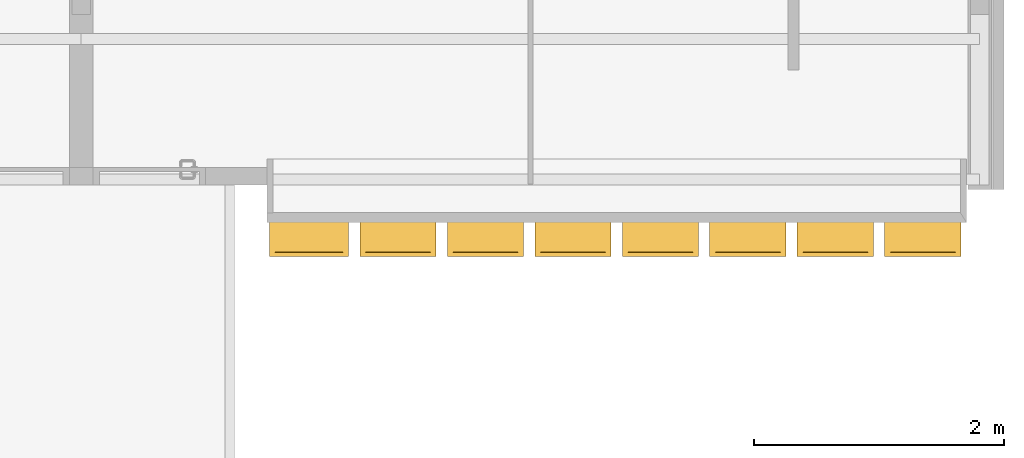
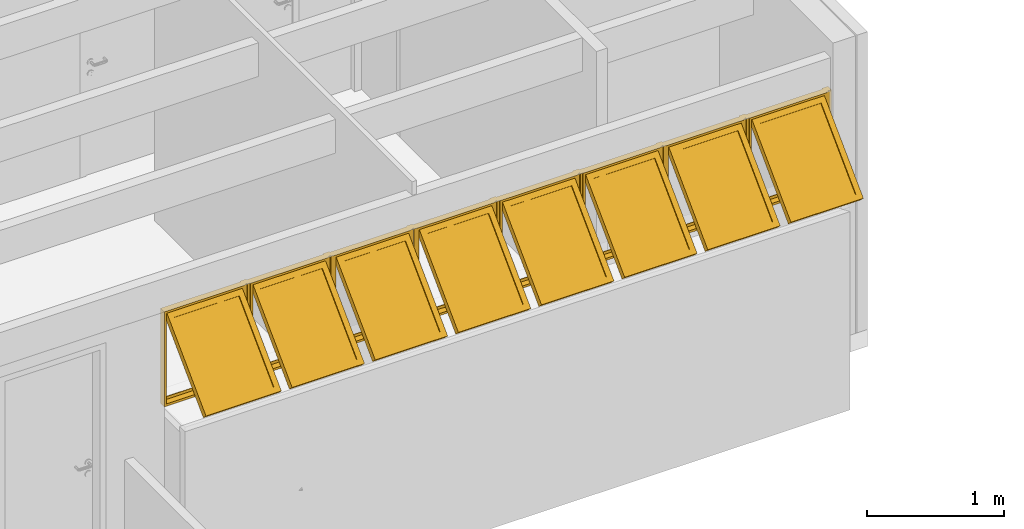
# One storey, part 20 of 22: 1 window.
"""IFC2X3 building model written with IfcOpenShell, lengths in millimetres."""

from ifc_helpers import new_model, si_unit, direction, frame, frame_2d, origin_with_axes, origin_2d_with_axis, place, context, subcontext, project, spatial, polyline, rectangle, outline, extrude, source, transform, mapped, type_object, type_shapes, element, save


model = new_model("IFC2X3")

# Units and contexts
model_context = context("Model", 3, precision=1e-05, world=origin_with_axes(), true_north=direction((0.0, 1.0)))
body_context = subcontext(model_context, "Body", "Model", "MODEL_VIEW")
ifc_project = project(units=[si_unit("LENGTHUNIT", "METRE", prefix="MILLI"), si_unit("AREAUNIT", "SQUARE_METRE"), si_unit("VOLUMEUNIT", "CUBIC_METRE"), si_unit("PLANEANGLEUNIT", "RADIAN"), si_unit("TIMEUNIT", "SECOND"), si_unit("MASSUNIT", "GRAM")], contexts=[model_context])

# Site, building, storey
site_placement = place(None, origin_with_axes())
site = spatial("IfcSite", under=ifc_project, at=site_placement, Name="Site", CompositionType="ELEMENT")
building_placement = place(site_placement, origin_with_axes())
building = spatial("IfcBuilding", under=site, at=building_placement, Name="Construção", CompositionType="COMPLEX")
storey_placement = place(building_placement, frame((0.0, 0.0, 2650.0), z_axis=(0.0, 0.0, 1.0), x_axis=(1.0, 0.0, 0.0)))
storey = spatial("IfcBuildingStorey", under=building, at=storey_placement, Name="Segundo Pavimento", CompositionType="COMPLEX", Elevation=2650.0)

# Window
window_style = type_object("IfcWindowStyle", ConstructionType="NOTDEFINED", OperationType="NOTDEFINED", ParameterTakesPrecedence=False, Sizeable=False)
shared_shape_1 = source(origin_with_axes(), body_context, "Body", "SweptSolid", [
    extrude(outline(polyline([(324.99999695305, -22.5), (-324.99999695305, -22.5), (-279.99999695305, 22.5), (279.99999695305, 22.5), (324.99999695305, -22.5)])), frame((-350.0000005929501, 22.5, -40.0), z_axis=(0.0, 0.0, 1.0), x_axis=(1.0, 0.0, 0.0)), (0.0, 0.0, 1.0), 5.0),
    extrude(outline(polyline([(-22.5, -422.499945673), (-22.5, 422.499945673), (22.5, 377.499945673), (22.5, -377.499945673), (-22.5, -422.499945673)])), frame((-652.499997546, 422.499945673, -40.0), z_axis=(0.0, 0.0, 1.0), x_axis=(1.0, 0.0, 0.0)), (0.0, 0.0, 1.0), 5.0),
    extrude(outline(polyline([(324.99999695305, 22.5), (279.99999695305, -22.5), (-279.9999969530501, -22.5), (-324.9999969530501, 22.5), (324.99999695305, 22.5)])), frame((-350.00000059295, 822.499891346, -40.0), z_axis=(0.0, 0.0, 1.0), x_axis=(1.0, 0.0, 0.0)), (0.0, 0.0, 1.0), 5.0),
    extrude(outline(polyline([(22.5, -422.499945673), (-22.5, -377.499945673), (-22.5, 377.499945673), (22.5, 422.499945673), (22.5, -422.499945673)])), frame((-47.5000036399, 422.499945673, -40.0), z_axis=(0.0, 0.0, 1.0), x_axis=(1.0, 0.0, 0.0)), (0.0, 0.0, 1.0), 5.0),
    extrude(outline(polyline([(324.99999695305, -10.0), (-324.99999695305, -10.0), (-304.99999695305, 10.0), (304.99999695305, 10.0), (324.99999695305, -10.0)])), frame((-350.0000005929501, 10.0, -35.0), z_axis=(0.0, 0.0, 1.0), x_axis=(1.0, 0.0, 0.0)), (0.0, 0.0, 1.0), 50.0),
    extrude(outline(polyline([(-10.0, -422.499945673), (-10.0, 422.499945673), (10.0, 402.499945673), (10.0, -402.499945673), (-10.0, -422.499945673)])), frame((-664.999997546, 422.499945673, -35.0), z_axis=(0.0, 0.0, 1.0), x_axis=(1.0, 0.0, 0.0)), (0.0, 0.0, 1.0), 50.0),
    extrude(outline(polyline([(324.99999695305, 10.0), (304.99999695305, -10.0), (-304.9999969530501, -10.0), (-324.9999969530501, 10.0), (324.99999695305, 10.0)])), frame((-350.00000059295, 834.999891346, -35.0), z_axis=(0.0, 0.0, 1.0), x_axis=(1.0, 0.0, 0.0)), (0.0, 0.0, 1.0), 50.0),
    extrude(outline(polyline([(10.0, -422.499945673), (-10.0, -402.499945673), (-10.0, 402.499945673), (10.0, 422.499945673), (10.0, -422.499945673)])), frame((-35.0000036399, 422.499945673, -35.0), z_axis=(0.0, 0.0, 1.0), x_axis=(1.0, 0.0, 0.0)), (0.0, 0.0, 1.0), 50.0),
    extrude(rectangle(XDim=844.999891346, YDim=19.99999787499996, at=frame_2d((0.0, 0.0), x_axis=(0.0, 1.0))), frame((-684.9999964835, 422.499945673, -10.0), z_axis=(0.0, 0.0, 1.0), x_axis=(1.0, 0.0, 0.0)), (0.0, 0.0, 1.0), 20.0),
    extrude(rectangle(XDim=844.999891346, YDim=19.99999787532, at=frame_2d((0.0, 0.0), x_axis=(0.0, 1.0))), frame((-15.00000470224, 422.499945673, -10.0), z_axis=(0.0, 0.0, 1.0), x_axis=(1.0, 0.0, 0.0)), (0.0, 0.0, 1.0), 20.0),
    extrude(outline(polyline([(-22.5, -357.4999456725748), (-22.50000000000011, 357.499945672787), (22.5, 402.4999456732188), (22.5, -402.4999456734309), (-22.5, -357.4999456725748)])), frame((-67.5000036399, 505.034111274, 264.2551019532), z_axis=(4.714640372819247e-12, 0.7071067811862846, 0.7071067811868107), x_axis=(1.0, 0.0, 0.0)), (0.0, 0.0, 1.0), 55.00000000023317),
    extrude(outline(polyline([(-22.5, -402.4999456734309), (-22.50000000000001, 402.4999456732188), (22.5, 357.499945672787), (22.5, -357.4999456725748), (-22.5, -402.4999456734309)])), frame((-632.499997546, 505.034111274, 264.2551019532), z_axis=(4.714640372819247e-12, 0.7071067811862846, 0.7071067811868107), x_axis=(1.0, 0.0, 0.0)), (0.0, 0.0, 1.0), 55.00000000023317),
    extrude(outline(polyline([(-304.9999969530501, -22.50000000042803), (-259.9999969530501, 22.50000000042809), (259.99999695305, 22.50000000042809), (304.99999695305, -22.50000000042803), (-304.9999969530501, -22.50000000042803)])), frame((-350.0000005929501, 236.333572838, 532.955640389), z_axis=(4.714640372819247e-12, 0.7071067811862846, 0.7071067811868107), x_axis=(1.0, 0.0, 0.0)), (0.0, 0.0, 1.0), 55.00000000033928),
    extrude(outline(polyline([(304.99999695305, 22.500000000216), (259.99999695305, -22.500000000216), (-259.9999969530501, -22.500000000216), (-304.9999969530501, 22.500000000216), (304.99999695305, 22.500000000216)])), frame((-350.00000059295, 773.73464971, -4.4454364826), z_axis=(4.714640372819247e-12, 0.7071067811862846, 0.7071067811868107), x_axis=(1.0, 0.0, 0.0)), (0.0, 0.0, 1.0), 55.00000000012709),
])
shared_shape_2 = source(origin_with_axes(), body_context, "Body", "SweptSolid", [
    extrude(rectangle(XDim=519.9999939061, YDim=16.00000000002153, at=origin_2d_with_axis()), frame((-350.0000005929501, 783.9876980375, 37.627416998), z_axis=(0.0, -0.7071067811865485, 0.7071067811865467), x_axis=(1.0, 0.0, 0.0)), (0.0, 0.0, 1.0), 714.9998913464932),
])
shared_shape_3 = source(origin_with_axes(), body_context, "Body", "MappedRepresentation", [
    mapped(shared_shape_1, transform((12370.0, 17910.0, 4005.00007107), x_axis=(1.0, 0.0, 0.0), y_axis=(0.0, 0.0, 1.0), z_axis=(0.0, -1.0, 0.0), scale=1.0)),
    mapped(shared_shape_2, transform((12370.0, 17910.0, 4005.00007107), x_axis=(1.0, 0.0, 0.0), y_axis=(0.0, 0.0, 1.0), z_axis=(0.0, -1.0, 0.0), scale=1.0)),
])
shared_shape_4 = source(origin_with_axes(), body_context, "Body", "MappedRepresentation", [
    mapped(shared_shape_1, transform((10270.0, 17910.0, 4005.00007107), x_axis=(1.0, 0.0, 0.0), y_axis=(0.0, 0.0, 1.0), z_axis=(0.0, -1.0, 0.0), scale=1.0)),
    mapped(shared_shape_2, transform((10270.0, 17910.0, 4005.00007107), x_axis=(1.0, 0.0, 0.0), y_axis=(0.0, 0.0, 1.0), z_axis=(0.0, -1.0, 0.0), scale=1.0)),
])
shared_shape_5 = source(origin_with_axes(), body_context, "Body", "SweptSolid", [
    extrude(outline(polyline([(324.99999695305, -22.5), (-324.99999695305, -22.5), (-279.99999695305, 22.5), (279.99999695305, 22.5), (324.99999695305, -22.5)])), frame((-350.0000005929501, 22.5, -40.0), z_axis=(0.0, 0.0, 1.0), x_axis=(1.0, 0.0, 0.0)), (0.0, 0.0, 1.0), 5.0),
    extrude(outline(polyline([(-22.5, -422.499945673), (-22.5, 422.499945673), (22.5, 377.499945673), (22.5, -377.499945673), (-22.5, -422.499945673)])), frame((-652.499997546, 422.499945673, -40.0), z_axis=(0.0, 0.0, 1.0), x_axis=(1.0, 0.0, 0.0)), (0.0, 0.0, 1.0), 5.0),
    extrude(outline(polyline([(324.99999695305, 22.5), (279.99999695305, -22.5), (-279.9999969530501, -22.5), (-324.9999969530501, 22.5), (324.99999695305, 22.5)])), frame((-350.00000059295, 822.499891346, -40.0), z_axis=(0.0, 0.0, 1.0), x_axis=(1.0, 0.0, 0.0)), (0.0, 0.0, 1.0), 5.0),
    extrude(outline(polyline([(22.5, -422.499945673), (-22.5, -377.499945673), (-22.5, 377.499945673), (22.5, 422.499945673), (22.5, -422.499945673)])), frame((-47.5000036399, 422.499945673, -40.0), z_axis=(0.0, 0.0, 1.0), x_axis=(1.0, 0.0, 0.0)), (0.0, 0.0, 1.0), 5.0),
    extrude(outline(polyline([(324.99999695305, -10.0), (-324.99999695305, -10.0), (-304.99999695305, 10.0), (304.99999695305, 10.0), (324.99999695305, -10.0)])), frame((-350.0000005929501, 10.0, -35.0), z_axis=(0.0, 0.0, 1.0), x_axis=(1.0, 0.0, 0.0)), (0.0, 0.0, 1.0), 50.0),
    extrude(outline(polyline([(-10.0, -422.499945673), (-10.0, 422.499945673), (10.0, 402.499945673), (10.0, -402.499945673), (-10.0, -422.499945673)])), frame((-664.999997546, 422.499945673, -35.0), z_axis=(0.0, 0.0, 1.0), x_axis=(1.0, 0.0, 0.0)), (0.0, 0.0, 1.0), 50.0),
    extrude(outline(polyline([(324.99999695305, 10.0), (304.99999695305, -10.0), (-304.9999969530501, -10.0), (-324.9999969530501, 10.0), (324.99999695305, 10.0)])), frame((-350.00000059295, 834.999891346, -35.0), z_axis=(0.0, 0.0, 1.0), x_axis=(1.0, 0.0, 0.0)), (0.0, 0.0, 1.0), 50.0),
    extrude(outline(polyline([(10.0, -422.499945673), (-10.0, -402.499945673), (-10.0, 402.499945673), (10.0, 422.499945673), (10.0, -422.499945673)])), frame((-35.0000036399, 422.499945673, -35.0), z_axis=(0.0, 0.0, 1.0), x_axis=(1.0, 0.0, 0.0)), (0.0, 0.0, 1.0), 50.0),
    extrude(rectangle(XDim=844.999891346, YDim=19.99999787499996, at=frame_2d((0.0, 0.0), x_axis=(0.0, 1.0))), frame((-684.9999964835, 422.499945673, -10.0), z_axis=(0.0, 0.0, 1.0), x_axis=(1.0, 0.0, 0.0)), (0.0, 0.0, 1.0), 20.0),
    extrude(rectangle(XDim=844.999891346, YDim=19.99999787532, at=frame_2d((0.0, 0.0), x_axis=(0.0, 1.0))), frame((-15.00000470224, 422.499945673, -10.0), z_axis=(0.0, 0.0, 1.0), x_axis=(1.0, 0.0, 0.0)), (0.0, 0.0, 1.0), 20.0),
    extrude(outline(polyline([(-22.5, -357.4999456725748), (-22.50000000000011, 357.499945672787), (22.5, 402.4999456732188), (22.5, -402.4999456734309), (-22.5, -357.4999456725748)])), frame((-67.5000036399, 505.034111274, 264.2551019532), z_axis=(4.714640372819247e-12, 0.7071067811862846, 0.7071067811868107), x_axis=(1.0, 0.0, 0.0)), (0.0, 0.0, 1.0), 55.00000000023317),
    extrude(outline(polyline([(-22.5, -402.4999456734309), (-22.50000000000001, 402.4999456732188), (22.5, 357.499945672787), (22.5, -357.4999456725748), (-22.5, -402.4999456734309)])), frame((-632.499997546, 505.034111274, 264.2551019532), z_axis=(4.714640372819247e-12, 0.7071067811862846, 0.7071067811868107), x_axis=(1.0, 0.0, 0.0)), (0.0, 0.0, 1.0), 55.00000000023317),
    extrude(outline(polyline([(-304.9999969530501, -22.50000000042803), (-259.9999969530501, 22.50000000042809), (259.99999695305, 22.50000000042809), (304.99999695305, -22.50000000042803), (-304.9999969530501, -22.50000000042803)])), frame((-350.0000005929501, 236.333572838, 532.955640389), z_axis=(4.714640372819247e-12, 0.7071067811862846, 0.7071067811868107), x_axis=(1.0, 0.0, 0.0)), (0.0, 0.0, 1.0), 55.00000000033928),
    extrude(outline(polyline([(304.99999695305, 22.500000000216), (259.99999695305, -22.500000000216), (-259.9999969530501, -22.500000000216), (-304.9999969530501, 22.500000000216), (304.99999695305, 22.500000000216)])), frame((-350.00000059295, 773.73464971, -4.4454364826), z_axis=(4.714640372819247e-12, 0.7071067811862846, 0.7071067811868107), x_axis=(1.0, 0.0, 0.0)), (0.0, 0.0, 1.0), 55.00000000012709),
])
shared_shape_6 = source(origin_with_axes(), body_context, "Body", "SweptSolid", [
    extrude(rectangle(XDim=519.9999939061, YDim=16.00000000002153, at=origin_2d_with_axis()), frame((-350.0000005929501, 783.9876980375, 37.627416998), z_axis=(0.0, -0.7071067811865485, 0.7071067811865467), x_axis=(1.0, 0.0, 0.0)), (0.0, 0.0, 1.0), 714.9998913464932),
])
shared_shape_7 = source(origin_with_axes(), body_context, "Body", "MappedRepresentation", [
    mapped(shared_shape_5, transform((14470.0, 17910.0, 4005.00007107), x_axis=(1.0, 0.0, 0.0), y_axis=(0.0, 0.0, 1.0), z_axis=(0.0, -1.0, 0.0), scale=1.0)),
    mapped(shared_shape_6, transform((14470.0, 17910.0, 4005.00007107), x_axis=(1.0, 0.0, 0.0), y_axis=(0.0, 0.0, 1.0), z_axis=(0.0, -1.0, 0.0), scale=1.0)),
])
shared_shape_8 = source(origin_with_axes(), body_context, "Body", "MappedRepresentation", [
    mapped(shared_shape_5, transform((13770.0, 17910.0, 4005.00007107), x_axis=(1.0, 0.0, 0.0), y_axis=(0.0, 0.0, 1.0), z_axis=(0.0, -1.0, 0.0), scale=1.0)),
    mapped(shared_shape_6, transform((13770.0, 17910.0, 4005.00007107), x_axis=(1.0, 0.0, 0.0), y_axis=(0.0, 0.0, 1.0), z_axis=(0.0, -1.0, 0.0), scale=1.0)),
])
shared_shape_9 = source(origin_with_axes(), body_context, "Body", "SweptSolid", [
    extrude(outline(polyline([(324.99999695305, -22.5), (-324.99999695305, -22.5), (-279.99999695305, 22.5), (279.99999695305, 22.5), (324.99999695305, -22.5)])), frame((-350.0000005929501, 22.5, -40.0), z_axis=(0.0, 0.0, 1.0), x_axis=(1.0, 0.0, 0.0)), (0.0, 0.0, 1.0), 5.0),
    extrude(outline(polyline([(-22.5, -422.499945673), (-22.5, 422.499945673), (22.5, 377.499945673), (22.5, -377.499945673), (-22.5, -422.499945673)])), frame((-652.499997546, 422.499945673, -40.0), z_axis=(0.0, 0.0, 1.0), x_axis=(1.0, 0.0, 0.0)), (0.0, 0.0, 1.0), 5.0),
    extrude(outline(polyline([(324.99999695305, 22.5), (279.99999695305, -22.5), (-279.9999969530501, -22.5), (-324.9999969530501, 22.5), (324.99999695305, 22.5)])), frame((-350.00000059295, 822.499891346, -40.0), z_axis=(0.0, 0.0, 1.0), x_axis=(1.0, 0.0, 0.0)), (0.0, 0.0, 1.0), 5.0),
    extrude(outline(polyline([(22.5, -422.499945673), (-22.5, -377.499945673), (-22.5, 377.499945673), (22.5, 422.499945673), (22.5, -422.499945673)])), frame((-47.5000036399, 422.499945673, -40.0), z_axis=(0.0, 0.0, 1.0), x_axis=(1.0, 0.0, 0.0)), (0.0, 0.0, 1.0), 5.0),
    extrude(outline(polyline([(324.99999695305, -10.0), (-324.99999695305, -10.0), (-304.99999695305, 10.0), (304.99999695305, 10.0), (324.99999695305, -10.0)])), frame((-350.0000005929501, 10.0, -35.0), z_axis=(0.0, 0.0, 1.0), x_axis=(1.0, 0.0, 0.0)), (0.0, 0.0, 1.0), 50.0),
    extrude(outline(polyline([(-10.0, -422.499945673), (-10.0, 422.499945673), (10.0, 402.499945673), (10.0, -402.499945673), (-10.0, -422.499945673)])), frame((-664.999997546, 422.499945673, -35.0), z_axis=(0.0, 0.0, 1.0), x_axis=(1.0, 0.0, 0.0)), (0.0, 0.0, 1.0), 50.0),
    extrude(outline(polyline([(324.99999695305, 10.0), (304.99999695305, -10.0), (-304.9999969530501, -10.0), (-324.9999969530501, 10.0), (324.99999695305, 10.0)])), frame((-350.00000059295, 834.999891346, -35.0), z_axis=(0.0, 0.0, 1.0), x_axis=(1.0, 0.0, 0.0)), (0.0, 0.0, 1.0), 50.0),
    extrude(outline(polyline([(10.0, -422.499945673), (-10.0, -402.499945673), (-10.0, 402.499945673), (10.0, 422.499945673), (10.0, -422.499945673)])), frame((-35.0000036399, 422.499945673, -35.0), z_axis=(0.0, 0.0, 1.0), x_axis=(1.0, 0.0, 0.0)), (0.0, 0.0, 1.0), 50.0),
    extrude(rectangle(XDim=844.999891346, YDim=19.99999787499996, at=frame_2d((0.0, 0.0), x_axis=(0.0, 1.0))), frame((-684.9999964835, 422.499945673, -10.0), z_axis=(0.0, 0.0, 1.0), x_axis=(1.0, 0.0, 0.0)), (0.0, 0.0, 1.0), 20.0),
    extrude(rectangle(XDim=844.999891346, YDim=19.99999787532, at=frame_2d((0.0, 0.0), x_axis=(0.0, 1.0))), frame((-15.00000470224, 422.499945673, -10.0), z_axis=(0.0, 0.0, 1.0), x_axis=(1.0, 0.0, 0.0)), (0.0, 0.0, 1.0), 20.0),
    extrude(outline(polyline([(-22.5, -357.4999456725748), (-22.50000000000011, 357.499945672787), (22.5, 402.4999456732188), (22.5, -402.4999456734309), (-22.5, -357.4999456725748)])), frame((-67.5000036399, 505.034111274, 264.2551019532), z_axis=(4.714640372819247e-12, 0.7071067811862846, 0.7071067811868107), x_axis=(1.0, 0.0, 0.0)), (0.0, 0.0, 1.0), 55.00000000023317),
    extrude(outline(polyline([(-22.5, -402.4999456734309), (-22.50000000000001, 402.4999456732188), (22.5, 357.499945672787), (22.5, -357.4999456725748), (-22.5, -402.4999456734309)])), frame((-632.499997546, 505.034111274, 264.2551019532), z_axis=(4.714640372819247e-12, 0.7071067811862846, 0.7071067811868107), x_axis=(1.0, 0.0, 0.0)), (0.0, 0.0, 1.0), 55.00000000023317),
    extrude(outline(polyline([(-304.9999969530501, -22.50000000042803), (-259.9999969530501, 22.50000000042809), (259.99999695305, 22.50000000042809), (304.99999695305, -22.50000000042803), (-304.9999969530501, -22.50000000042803)])), frame((-350.0000005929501, 236.333572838, 532.955640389), z_axis=(4.714640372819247e-12, 0.7071067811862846, 0.7071067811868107), x_axis=(1.0, 0.0, 0.0)), (0.0, 0.0, 1.0), 55.00000000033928),
    extrude(outline(polyline([(304.99999695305, 22.500000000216), (259.99999695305, -22.500000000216), (-259.9999969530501, -22.500000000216), (-304.9999969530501, 22.500000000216), (304.99999695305, 22.500000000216)])), frame((-350.00000059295, 773.73464971, -4.4454364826), z_axis=(4.714640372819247e-12, 0.7071067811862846, 0.7071067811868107), x_axis=(1.0, 0.0, 0.0)), (0.0, 0.0, 1.0), 55.00000000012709),
])
shared_shape_10 = source(origin_with_axes(), body_context, "Body", "SweptSolid", [
    extrude(rectangle(XDim=519.9999939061, YDim=16.00000000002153, at=origin_2d_with_axis()), frame((-350.0000005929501, 783.9876980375, 37.627416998), z_axis=(0.0, -0.7071067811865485, 0.7071067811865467), x_axis=(1.0, 0.0, 0.0)), (0.0, 0.0, 1.0), 714.9998913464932),
])
shared_shape_11 = source(origin_with_axes(), body_context, "Body", "MappedRepresentation", [
    mapped(shared_shape_9, transform((11670.0, 17910.0, 4005.00007107), x_axis=(1.0, 0.0, 0.0), y_axis=(0.0, 0.0, 1.0), z_axis=(0.0, -1.0, 0.0), scale=1.0)),
    mapped(shared_shape_10, transform((11670.0, 17910.0, 4005.00007107), x_axis=(1.0, 0.0, 0.0), y_axis=(0.0, 0.0, 1.0), z_axis=(0.0, -1.0, 0.0), scale=1.0)),
])
shared_shape_12 = source(origin_with_axes(), body_context, "Body", "MappedRepresentation", [
    mapped(shared_shape_5, transform((10970.0, 17910.0, 4005.00007107), x_axis=(1.0, 0.0, 0.0), y_axis=(0.0, 0.0, 1.0), z_axis=(0.0, -1.0, 0.0), scale=1.0)),
    mapped(shared_shape_6, transform((10970.0, 17910.0, 4005.00007107), x_axis=(1.0, 0.0, 0.0), y_axis=(0.0, 0.0, 1.0), z_axis=(0.0, -1.0, 0.0), scale=1.0)),
])
shared_shape_13 = source(origin_with_axes(), body_context, "Body", "SweptSolid", [
    extrude(outline(polyline([(337.49999657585, -22.5), (-337.49999657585, -22.5), (-292.49999657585, 22.5), (292.49999657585, 22.5), (337.49999657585, -22.5)])), frame((-362.50000285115, 22.5, -40.0), z_axis=(0.0, 0.0, 1.0), x_axis=(1.0, 0.0, 0.0)), (0.0, 0.0, 1.0), 5.0),
    extrude(outline(polyline([(-22.5, -422.4999902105), (-22.5, 422.4999902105), (22.5, 377.4999902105), (22.5, -377.4999902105), (-22.5, -422.4999902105)])), frame((-677.499999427, 422.4999902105, -40.0), z_axis=(0.0, 0.0, 1.0), x_axis=(1.0, 0.0, 0.0)), (0.0, 0.0, 1.0), 5.0),
    extrude(outline(polyline([(337.49999657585, 22.5), (292.49999657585, -22.5), (-292.49999657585, -22.5), (-337.49999657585, 22.5), (337.49999657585, 22.5)])), frame((-362.50000285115, 822.499980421, -40.0), z_axis=(0.0, 0.0, 1.0), x_axis=(1.0, 0.0, 0.0)), (0.0, 0.0, 1.0), 5.0),
    extrude(outline(polyline([(22.5, -422.4999902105), (-22.5, -377.4999902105), (-22.5, 377.4999902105), (22.5, 422.4999902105), (22.5, -422.4999902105)])), frame((-47.5000062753, 422.4999902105, -40.0), z_axis=(0.0, 0.0, 1.0), x_axis=(1.0, 0.0, 0.0)), (0.0, 0.0, 1.0), 5.0),
    extrude(outline(polyline([(337.49999657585, -10.0), (-337.49999657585, -10.0), (-317.49999657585, 10.0), (317.49999657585, 10.0), (337.49999657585, -10.0)])), frame((-362.50000285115, 10.0, -35.0), z_axis=(0.0, 0.0, 1.0), x_axis=(1.0, 0.0, 0.0)), (0.0, 0.0, 1.0), 50.0),
    extrude(outline(polyline([(-10.0, -422.4999902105), (-10.0, 422.4999902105), (10.0, 402.4999902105), (10.0, -402.4999902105), (-10.0, -422.4999902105)])), frame((-689.999999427, 422.4999902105, -35.0), z_axis=(0.0, 0.0, 1.0), x_axis=(1.0, 0.0, 0.0)), (0.0, 0.0, 1.0), 50.0),
    extrude(outline(polyline([(337.49999657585, 10.0), (317.49999657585, -10.0), (-317.49999657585, -10.0), (-337.49999657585, 10.0), (337.49999657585, 10.0)])), frame((-362.50000285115, 834.999980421, -35.0), z_axis=(0.0, 0.0, 1.0), x_axis=(1.0, 0.0, 0.0)), (0.0, 0.0, 1.0), 50.0),
    extrude(outline(polyline([(10.0, -422.4999902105), (-10.0, -402.4999902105), (-10.0, 402.4999902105), (10.0, 422.4999902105), (10.0, -422.4999902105)])), frame((-35.0000062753, 422.4999902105, -35.0), z_axis=(0.0, 0.0, 1.0), x_axis=(1.0, 0.0, 0.0)), (0.0, 0.0, 1.0), 50.0),
    extrude(rectangle(XDim=844.999980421, YDim=19.99999998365, at=frame_2d((0.0, 0.0), x_axis=(0.0, 1.0))), frame((-15.000006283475, 422.4999902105, -10.0), z_axis=(0.0, 0.0, 1.0), x_axis=(1.0, 0.0, 0.0)), (0.0, 0.0, 1.0), 20.0),
    extrude(outline(polyline([(-22.49999999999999, -357.4999902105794), (-22.49999999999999, 357.4999902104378), (22.50000000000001, 402.4999902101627), (22.50000000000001, -402.4999902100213), (-22.49999999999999, -357.4999902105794)])), frame((-67.5000062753, 505.034168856, 264.25513344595), z_axis=(4.714640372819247e-12, 0.7071067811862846, 0.7071067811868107), x_axis=(1.0, 0.0, 0.0)), (0.0, 0.0, 1.0), 54.99999999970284),
    extrude(outline(polyline([(-22.5, -402.4999902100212), (-22.5, 402.4999902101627), (22.50000000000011, 357.4999902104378), (22.50000000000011, -357.4999902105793), (-22.5, -402.4999902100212)])), frame((-657.499999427, 505.034168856, 264.25513344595), z_axis=(4.714640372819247e-12, 0.7071067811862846, 0.7071067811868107), x_axis=(1.0, 0.0, 0.0)), (0.0, 0.0, 1.0), 54.99999999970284),
    extrude(outline(polyline([(-317.49999657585, -22.49999999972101), (-272.49999657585, 22.49999999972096), (272.49999657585, 22.49999999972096), (317.49999657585, -22.49999999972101), (-317.49999657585, -22.49999999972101)])), frame((-362.50000285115, 236.3335989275, 532.9557033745), z_axis=(4.714640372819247e-12, 0.7071067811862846, 0.7071067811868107), x_axis=(1.0, 0.0, 0.0)), (0.0, 0.0, 1.0), 54.99999999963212),
    extrude(outline(polyline([(317.49999657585, 22.49999999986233), (272.49999657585, -22.49999999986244), (-272.49999657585, -22.49999999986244), (-317.49999657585, 22.49999999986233), (317.49999657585, 22.49999999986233)])), frame((-362.50000285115, 773.7347387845, -4.4454364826), z_axis=(4.714640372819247e-12, 0.7071067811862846, 0.7071067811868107), x_axis=(1.0, 0.0, 0.0)), (0.0, 0.0, 1.0), 54.99999999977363),
])
shared_shape_14 = source(origin_with_axes(), body_context, "Body", "SweptSolid", [
    extrude(rectangle(XDim=544.9999931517, YDim=16.00000000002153, at=origin_2d_with_axis()), frame((-362.50000285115, 783.9877871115, 37.627416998), z_axis=(0.0, -0.7071067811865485, 0.7071067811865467), x_axis=(1.0, 0.0, 0.0)), (0.0, 0.0, 1.0), 714.9999804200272),
])
shared_shape_15 = source(origin_with_axes(), body_context, "Body", "MappedRepresentation", [
    mapped(shared_shape_13, transform((9570.0, 17910.0, 4005.00007107), x_axis=(1.0, 0.0, 0.0), y_axis=(0.0, 0.0, 1.0), z_axis=(0.0, -1.0, 0.0), scale=1.0)),
    mapped(shared_shape_14, transform((9570.0, 17910.0, 4005.00007107), x_axis=(1.0, 0.0, 0.0), y_axis=(0.0, 0.0, 1.0), z_axis=(0.0, -1.0, 0.0), scale=1.0)),
])
shared_shape_16 = source(origin_with_axes(), body_context, "Body", "MappedRepresentation", [
    mapped(shared_shape_9, transform((13070.0, 17910.0, 4005.00007107), x_axis=(1.0, 0.0, 0.0), y_axis=(0.0, 0.0, 1.0), z_axis=(0.0, -1.0, 0.0), scale=1.0)),
    mapped(shared_shape_10, transform((13070.0, 17910.0, 4005.00007107), x_axis=(1.0, 0.0, 0.0), y_axis=(0.0, 0.0, 1.0), z_axis=(0.0, -1.0, 0.0), scale=1.0)),
])
shared_shape_17 = source(origin_with_axes(), body_context, "Body", "SweptSolid", [
    extrude(rectangle(XDim=844.999928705, YDim=50.0, at=frame_2d((0.0, 0.0), x_axis=(0.0, 1.0))), frame((3525.0, 422.4999643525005, -50.0), z_axis=(0.0, 0.0, 1.0), x_axis=(1.0, 0.0, 0.0)), (0.0, 0.0, 1.0), 50.0),
])
shared_shape_18 = source(origin_with_axes(), body_context, "Body", "SweptSolid", [
    extrude(rectangle(XDim=844.999928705, YDim=50.0, at=frame_2d((0.0, 0.0), x_axis=(0.0, 1.0))), frame((4225.0, 422.4999643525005, -50.0), z_axis=(0.0, 0.0, 1.0), x_axis=(1.0, 0.0, 0.0)), (0.0, 0.0, 1.0), 50.0),
])
shared_shape_19 = source(origin_with_axes(), body_context, "Body", "SweptSolid", [
    extrude(rectangle(XDim=844.999928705, YDim=50.0, at=frame_2d((0.0, 0.0), x_axis=(0.0, 1.0))), frame((4925.0, 422.4999643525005, -50.0), z_axis=(0.0, 0.0, 1.0), x_axis=(1.0, 0.0, 0.0)), (0.0, 0.0, 1.0), 50.0),
])
shared_shape_20 = source(origin_with_axes(), body_context, "Body", "SweptSolid", [
    extrude(rectangle(XDim=844.999928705, YDim=50.0, at=frame_2d((0.0, 0.0), x_axis=(0.0, 1.0))), frame((2125.0, 422.4999643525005, -50.0), z_axis=(0.0, 0.0, 1.0), x_axis=(1.0, 0.0, 0.0)), (0.0, 0.0, 1.0), 50.0),
])
shared_shape_21 = source(origin_with_axes(), body_context, "Body", "SweptSolid", [
    extrude(rectangle(XDim=844.999928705, YDim=50.0, at=frame_2d((0.0, 0.0), x_axis=(0.0, 1.0))), frame((25.0, 422.4999643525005, -50.0), z_axis=(0.0, 0.0, 1.0), x_axis=(1.0, 0.0, 0.0)), (0.0, 0.0, 1.0), 50.0),
])
shared_shape_22 = source(origin_with_axes(), body_context, "Body", "SweptSolid", [
    extrude(rectangle(XDim=844.999928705, YDim=50.0, at=frame_2d((0.0, 0.0), x_axis=(0.0, 1.0))), frame((2825.0, 422.4999643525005, -50.0), z_axis=(0.0, 0.0, 1.0), x_axis=(1.0, 0.0, 0.0)), (0.0, 0.0, 1.0), 50.0),
])
shared_shape_23 = source(origin_with_axes(), body_context, "Body", "SweptSolid", [
    extrude(rectangle(XDim=844.999928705, YDim=50.0, at=frame_2d((0.0, 0.0), x_axis=(0.0, 1.0))), frame((1425.0, 422.4999643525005, -50.0), z_axis=(0.0, 0.0, 1.0), x_axis=(1.0, 0.0, 0.0)), (0.0, 0.0, 1.0), 50.0),
])
shared_shape_24 = source(origin_with_axes(), body_context, "Body", "SweptSolid", [
    extrude(rectangle(XDim=844.999928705, YDim=50.0, at=frame_2d((0.0, 0.0), x_axis=(0.0, 1.0))), frame((725.0, 422.4999643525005, -50.0), z_axis=(0.0, 0.0, 1.0), x_axis=(1.0, 0.0, 0.0)), (0.0, 0.0, 1.0), 50.0),
])
shared_shape_25 = source(origin_with_axes(), body_context, "Body", "MappedRepresentation", [
    mapped(shared_shape_3, transform((14495.0, -4005.00007107, -17960.0), x_axis=(-1.0, 0.0, 0.0), y_axis=(0.0, 0.0, 1.0), z_axis=(0.0, 1.0, 0.0), scale=1.0)),
    mapped(shared_shape_4, transform((14495.0, -4005.00007107, -17960.0), x_axis=(-1.0, 0.0, 0.0), y_axis=(0.0, 0.0, 1.0), z_axis=(0.0, 1.0, 0.0), scale=1.0)),
    mapped(shared_shape_7, transform((14495.0, -4005.00007107, -17960.0), x_axis=(-1.0, 0.0, 0.0), y_axis=(0.0, 0.0, 1.0), z_axis=(0.0, 1.0, 0.0), scale=1.0)),
    mapped(shared_shape_8, transform((14495.0, -4005.00007107, -17960.0), x_axis=(-1.0, 0.0, 0.0), y_axis=(0.0, 0.0, 1.0), z_axis=(0.0, 1.0, 0.0), scale=1.0)),
    mapped(shared_shape_11, transform((14495.0, -4005.00007107, -17960.0), x_axis=(-1.0, 0.0, 0.0), y_axis=(0.0, 0.0, 1.0), z_axis=(0.0, 1.0, 0.0), scale=1.0)),
    mapped(shared_shape_12, transform((14495.0, -4005.00007107, -17960.0), x_axis=(-1.0, 0.0, 0.0), y_axis=(0.0, 0.0, 1.0), z_axis=(0.0, 1.0, 0.0), scale=1.0)),
    mapped(shared_shape_15, transform((14495.0, -4005.00007107, -17960.0), x_axis=(-1.0, 0.0, 0.0), y_axis=(0.0, 0.0, 1.0), z_axis=(0.0, 1.0, 0.0), scale=1.0)),
    mapped(shared_shape_16, transform((14495.0, -4005.00007107, -17960.0), x_axis=(-1.0, 0.0, 0.0), y_axis=(0.0, 0.0, 1.0), z_axis=(0.0, 1.0, 0.0), scale=1.0)),
    mapped(shared_shape_17, transform((0.0, 0.0, 0.0))),
    mapped(shared_shape_18, transform((0.0, 0.0, 0.0))),
    mapped(shared_shape_19, transform((0.0, 0.0, 0.0))),
    mapped(shared_shape_20, transform((0.0, 0.0, 0.0))),
    mapped(shared_shape_21, transform((0.0, 0.0, 0.0))),
    mapped(shared_shape_22, transform((0.0, 0.0, 0.0))),
    mapped(shared_shape_23, transform((0.0, 0.0, 0.0))),
    mapped(shared_shape_24, transform((0.0, 0.0, 0.0))),
])
type_shapes(window_style, [shared_shape_25])
window_placement = place(storey_placement, frame((14495.0, 17960.0, 1355.00007107), z_axis=(0.0, 0.0, 1.0), x_axis=(-1.0, 0.0, 0.0)))
element("IfcWindow", 1, at=window_placement, inside=storey, type_object=window_style, Name="APTO8-JANELA-000", context=body_context, shape_type="MappedRepresentation", body=[
    mapped(shared_shape_25, transform((0.0, 0.0, 0.0), x_axis=(1.0, 0.0, 0.0), y_axis=(0.0, 0.0, 1.0), z_axis=(0.0, -1.0, 0.0), scale=1.0)),
])

save(model, "model.ifc")
